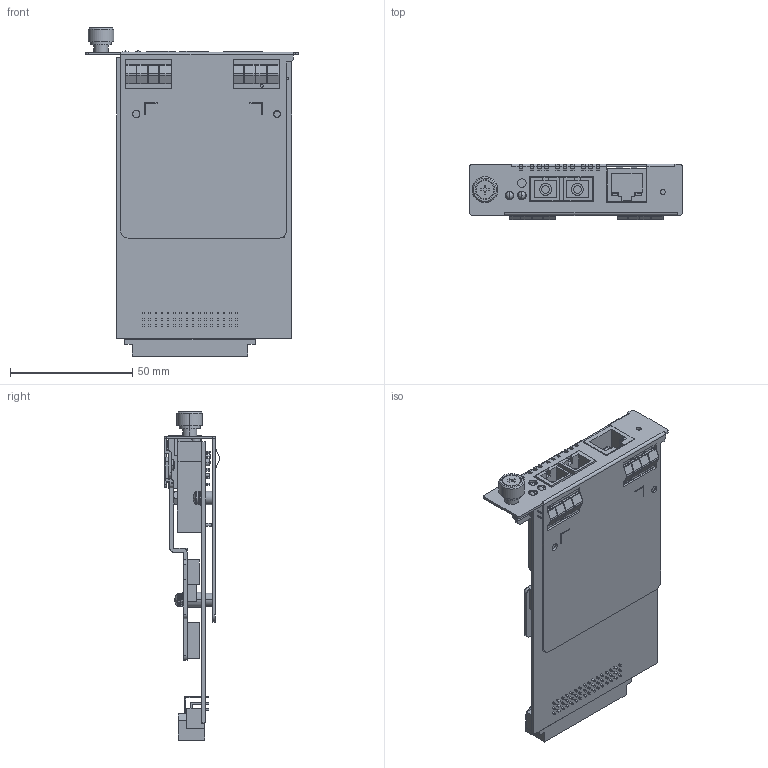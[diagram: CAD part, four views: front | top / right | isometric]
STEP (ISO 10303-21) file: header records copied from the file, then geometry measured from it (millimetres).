
FILE_DESCRIPTION((''),'2;1');
FILE_NAME('CSM-400-SC','2017-01-25T',('Dacia_Yao'),('PTC'),'PRO/ENGINEER BY PARAMETRIC TECHNOLOGY CORPORATION, 2013230','PRO/ENGINEER BY PARAMETRIC TECHNOLOGY CORPORATION, 2013230','');
FILE_SCHEMA(('AUTOMOTIVE_DESIGN { 1 0 10303 214 1 1 1 1 }'));
Products named in the file (1): CSM-400-SC
Bounding box: 86.8 x 22.88 x 134.3 mm (x, y, z)
Volume: 48141.4 mm3; surface area: 54550.3 mm2
Topology: 6 solids, 7 shells, 1791 faces, 4719 edges, 3097 vertices
Faces by surface type: plane 1438, cylinder 298, bspline 28, cone 15, torus 8, revolution 4
Entity records: 69346 total; most frequent: CARTESIAN_POINT 13736, ORIENTED_EDGE 9438, DIRECTION 8723, EDGE_CURVE 4719, VECTOR 3951, LINE 3951, VERTEX_POINT 3097, AXIS2_PLACEMENT_3D 2384
